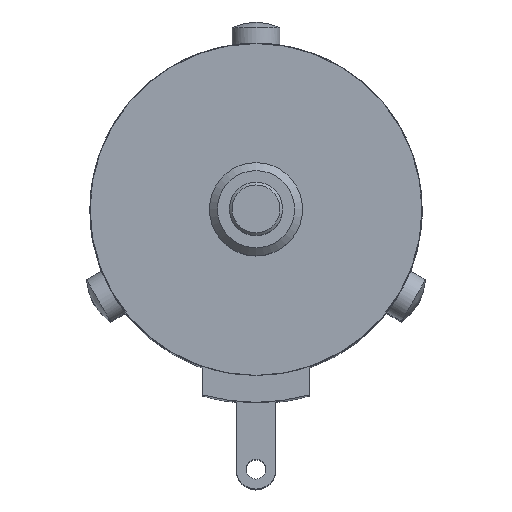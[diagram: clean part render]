
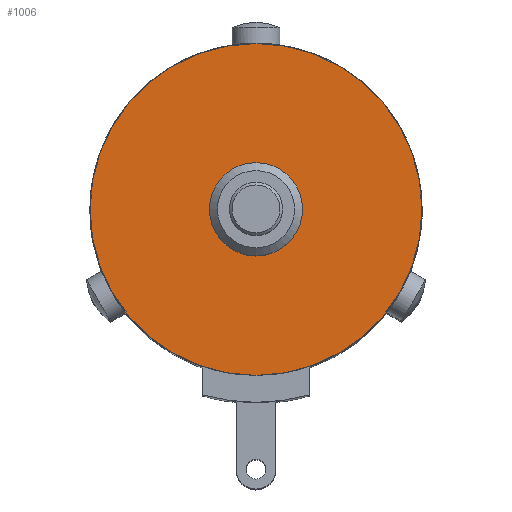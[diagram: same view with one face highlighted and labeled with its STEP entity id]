
A CAD part, top view. The second image highlights one B-rep face of the part: STEP entity #1006.
In plain terms, the highlighted planar face has unit normal (0, 0, 1).
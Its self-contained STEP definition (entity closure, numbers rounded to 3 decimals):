
#39 = EDGE_LOOP ( 'NONE', ( #901 ) ) ;
#136 = DIRECTION ( 'NONE',  ( 0., 0., -1. ) ) ;
#142 = CIRCLE ( 'NONE', #361, 3.5 ) ;
#156 = FACE_BOUND ( 'NONE', #1033, .T. ) ;
#247 = CARTESIAN_POINT ( 'NONE',  ( 0., 0., 0.5 ) ) ;
#341 = CARTESIAN_POINT ( 'NONE',  ( 0., 0., 0.5 ) ) ;
#361 = AXIS2_PLACEMENT_3D ( 'NONE', #341, #1482, #987 ) ;
#418 = PLANE ( 'NONE',  #640 ) ;
#470 = ORIENTED_EDGE ( 'NONE', *, *, #500, .F. ) ;
#498 = DIRECTION ( 'NONE',  ( 0., 0., 1. ) ) ;
#500 = EDGE_CURVE ( 'NONE', #1612, #1612, #142, .T. ) ;
#640 = AXIS2_PLACEMENT_3D ( 'NONE', #681, #136, #1027 ) ;
#681 = CARTESIAN_POINT ( 'NONE',  ( 0., 12.475, 0.5 ) ) ;
#736 = CIRCLE ( 'NONE', #1096, 12.475 ) ;
#811 = VERTEX_POINT ( 'NONE', #1609 ) ;
#881 = DIRECTION ( 'NONE',  ( 0., -1., 0. ) ) ;
#901 = ORIENTED_EDGE ( 'NONE', *, *, #1011, .T. ) ;
#987 = DIRECTION ( 'NONE',  ( 0., -1., 0. ) ) ;
#1006 = ADVANCED_FACE ( 'NONE', ( #156, #1169 ), #418, .F. ) ;
#1011 = EDGE_CURVE ( 'NONE', #811, #811, #736, .T. ) ;
#1027 = DIRECTION ( 'NONE',  ( 0., 1., 0. ) ) ;
#1033 = EDGE_LOOP ( 'NONE', ( #470 ) ) ;
#1096 = AXIS2_PLACEMENT_3D ( 'NONE', #247, #498, #881 ) ;
#1163 = CARTESIAN_POINT ( 'NONE',  ( 0., -3.5, 0.5 ) ) ;
#1169 = FACE_OUTER_BOUND ( 'NONE', #39, .T. ) ;
#1482 = DIRECTION ( 'NONE',  ( 0., 0., 1. ) ) ;
#1609 = CARTESIAN_POINT ( 'NONE',  ( 0., -12.475, 0.5 ) ) ;
#1612 = VERTEX_POINT ( 'NONE', #1163 ) ;
